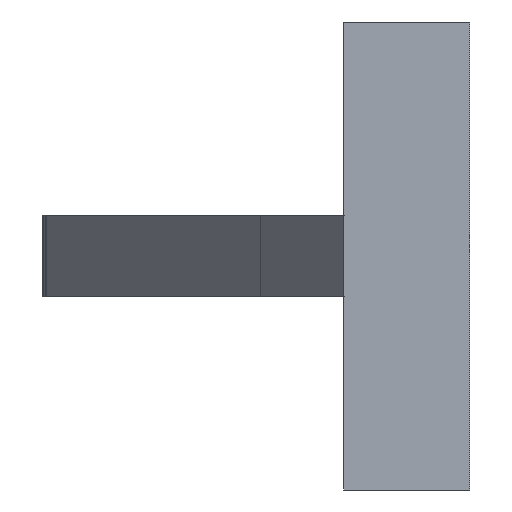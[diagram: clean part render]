
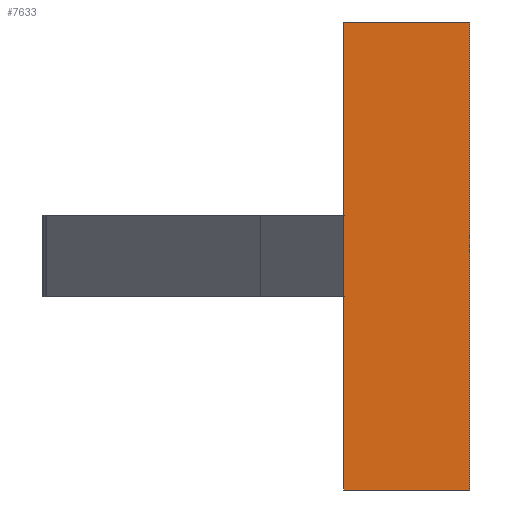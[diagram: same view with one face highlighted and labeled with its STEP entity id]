
A CAD part, front view. The second image highlights one B-rep face of the part: STEP entity #7633.
In plain terms, the highlighted planar face has unit normal (0, -1, 0).
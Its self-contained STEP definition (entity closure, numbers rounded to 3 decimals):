
#635 = VERTEX_POINT('',#636);
#636 = CARTESIAN_POINT('',(26.,-49.,-4.5));
#649 = PLANE('',#650);
#650 = AXIS2_PLACEMENT_3D('',#651,#652,#653);
#651 = CARTESIAN_POINT('',(36.,-38.,-26.));
#652 = DIRECTION('',(0.74,-0.673,0.));
#653 = DIRECTION('',(-0.673,-0.74,0.));
#676 = PLANE('',#677);
#677 = AXIS2_PLACEMENT_3D('',#678,#679,#680);
#678 = CARTESIAN_POINT('',(26.,-49.,-4.5));
#679 = DIRECTION('',(-0.79,-0.613,0.));
#680 = DIRECTION('',(-0.613,0.79,0.));
#3159 = VERTEX_POINT('',#3160);
#3160 = CARTESIAN_POINT('',(26.,-49.,4.5));
#3173 = PLANE('',#3174);
#3174 = AXIS2_PLACEMENT_3D('',#3175,#3176,#3177);
#3175 = CARTESIAN_POINT('',(36.,-38.,-26.));
#3176 = DIRECTION('',(0.74,-0.673,0.));
#3177 = DIRECTION('',(-0.673,-0.74,0.));
#5246 = EDGE_CURVE('',#635,#3159,#5247,.T.);
#5247 = SURFACE_CURVE('',#5248,(#5252,#5259),.PCURVE_S1.);
#5248 = LINE('',#5249,#5250);
#5249 = CARTESIAN_POINT('',(26.,-49.,-4.5));
#5250 = VECTOR('',#5251,1.);
#5251 = DIRECTION('',(0.,0.,1.));
#5252 = PCURVE('',#676,#5253);
#5253 = DEFINITIONAL_REPRESENTATION('',(#5254),#5258);
#5254 = LINE('',#5255,#5256);
#5255 = CARTESIAN_POINT('',(0.,0.));
#5256 = VECTOR('',#5257,1.);
#5257 = DIRECTION('',(0.,-1.));
#5258 = ( GEOMETRIC_REPRESENTATION_CONTEXT(2) 
PARAMETRIC_REPRESENTATION_CONTEXT() REPRESENTATION_CONTEXT('2D SPACE',''
  ) );
#5259 = PCURVE('',#5260,#5265);
#5260 = PLANE('',#5261);
#5261 = AXIS2_PLACEMENT_3D('',#5262,#5263,#5264);
#5262 = CARTESIAN_POINT('',(36.,-49.,-4.5));
#5263 = DIRECTION('',(0.,-1.,0.));
#5264 = DIRECTION('',(-1.,0.,0.));
#5265 = DEFINITIONAL_REPRESENTATION('',(#5266),#5270);
#5266 = LINE('',#5267,#5268);
#5267 = CARTESIAN_POINT('',(10.,0.));
#5268 = VECTOR('',#5269,1.);
#5269 = DIRECTION('',(0.,-1.));
#5270 = ( GEOMETRIC_REPRESENTATION_CONTEXT(2) 
PARAMETRIC_REPRESENTATION_CONTEXT() REPRESENTATION_CONTEXT('2D SPACE',''
  ) );
#5308 = VERTEX_POINT('',#5309);
#5309 = CARTESIAN_POINT('',(26.,-49.,-26.));
#5323 = PLANE('',#5324);
#5324 = AXIS2_PLACEMENT_3D('',#5325,#5326,#5327);
#5325 = CARTESIAN_POINT('',(32.533,-45.033,-26.));
#5326 = DIRECTION('',(0.,0.,1.));
#5327 = DIRECTION('',(1.,0.,-0.));
#5357 = EDGE_CURVE('',#5308,#635,#5358,.T.);
#5358 = SURFACE_CURVE('',#5359,(#5363,#5370),.PCURVE_S1.);
#5359 = LINE('',#5360,#5361);
#5360 = CARTESIAN_POINT('',(26.,-49.,-26.));
#5361 = VECTOR('',#5362,1.);
#5362 = DIRECTION('',(0.,0.,1.));
#5363 = PCURVE('',#649,#5364);
#5364 = DEFINITIONAL_REPRESENTATION('',(#5365),#5369);
#5365 = LINE('',#5366,#5367);
#5366 = CARTESIAN_POINT('',(14.866,0.));
#5367 = VECTOR('',#5368,1.);
#5368 = DIRECTION('',(0.,-1.));
#5369 = ( GEOMETRIC_REPRESENTATION_CONTEXT(2) 
PARAMETRIC_REPRESENTATION_CONTEXT() REPRESENTATION_CONTEXT('2D SPACE',''
  ) );
#5370 = PCURVE('',#5260,#5371);
#5371 = DEFINITIONAL_REPRESENTATION('',(#5372),#5376);
#5372 = LINE('',#5373,#5374);
#5373 = CARTESIAN_POINT('',(10.,21.5));
#5374 = VECTOR('',#5375,1.);
#5375 = DIRECTION('',(0.,-1.));
#5376 = ( GEOMETRIC_REPRESENTATION_CONTEXT(2) 
PARAMETRIC_REPRESENTATION_CONTEXT() REPRESENTATION_CONTEXT('2D SPACE',''
  ) );
#7537 = VERTEX_POINT('',#7538);
#7538 = CARTESIAN_POINT('',(26.,-49.,26.));
#7552 = PLANE('',#7553);
#7553 = AXIS2_PLACEMENT_3D('',#7554,#7555,#7556);
#7554 = CARTESIAN_POINT('',(32.533,-45.033,26.));
#7555 = DIRECTION('',(0.,0.,1.));
#7556 = DIRECTION('',(1.,0.,-0.));
#7564 = EDGE_CURVE('',#3159,#7537,#7565,.T.);
#7565 = SURFACE_CURVE('',#7566,(#7570,#7577),.PCURVE_S1.);
#7566 = LINE('',#7567,#7568);
#7567 = CARTESIAN_POINT('',(26.,-49.,-26.));
#7568 = VECTOR('',#7569,1.);
#7569 = DIRECTION('',(0.,0.,1.));
#7570 = PCURVE('',#3173,#7571);
#7571 = DEFINITIONAL_REPRESENTATION('',(#7572),#7576);
#7572 = LINE('',#7573,#7574);
#7573 = CARTESIAN_POINT('',(14.866,0.));
#7574 = VECTOR('',#7575,1.);
#7575 = DIRECTION('',(0.,-1.));
#7576 = ( GEOMETRIC_REPRESENTATION_CONTEXT(2) 
PARAMETRIC_REPRESENTATION_CONTEXT() REPRESENTATION_CONTEXT('2D SPACE',''
  ) );
#7577 = PCURVE('',#5260,#7578);
#7578 = DEFINITIONAL_REPRESENTATION('',(#7579),#7583);
#7579 = LINE('',#7580,#7581);
#7580 = CARTESIAN_POINT('',(10.,21.5));
#7581 = VECTOR('',#7582,1.);
#7582 = DIRECTION('',(0.,-1.));
#7583 = ( GEOMETRIC_REPRESENTATION_CONTEXT(2) 
PARAMETRIC_REPRESENTATION_CONTEXT() REPRESENTATION_CONTEXT('2D SPACE',''
  ) );
#7633 = ADVANCED_FACE('',(#7634),#5260,.T.);
#7634 = FACE_BOUND('',#7635,.T.);
#7635 = EDGE_LOOP('',(#7636,#7637,#7638,#7661,#7689,#7710));
#7636 = ORIENTED_EDGE('',*,*,#5246,.F.);
#7637 = ORIENTED_EDGE('',*,*,#5357,.F.);
#7638 = ORIENTED_EDGE('',*,*,#7639,.T.);
#7639 = EDGE_CURVE('',#5308,#7640,#7642,.T.);
#7640 = VERTEX_POINT('',#7641);
#7641 = CARTESIAN_POINT('',(40.,-49.,-26.));
#7642 = SURFACE_CURVE('',#7643,(#7647,#7654),.PCURVE_S1.);
#7643 = LINE('',#7644,#7645);
#7644 = CARTESIAN_POINT('',(26.,-49.,-26.));
#7645 = VECTOR('',#7646,1.);
#7646 = DIRECTION('',(1.,0.,0.));
#7647 = PCURVE('',#5260,#7648);
#7648 = DEFINITIONAL_REPRESENTATION('',(#7649),#7653);
#7649 = LINE('',#7650,#7651);
#7650 = CARTESIAN_POINT('',(10.,21.5));
#7651 = VECTOR('',#7652,1.);
#7652 = DIRECTION('',(-1.,-0.));
#7653 = ( GEOMETRIC_REPRESENTATION_CONTEXT(2) 
PARAMETRIC_REPRESENTATION_CONTEXT() REPRESENTATION_CONTEXT('2D SPACE',''
  ) );
#7654 = PCURVE('',#5323,#7655);
#7655 = DEFINITIONAL_REPRESENTATION('',(#7656),#7660);
#7656 = LINE('',#7657,#7658);
#7657 = CARTESIAN_POINT('',(-6.533,-3.967));
#7658 = VECTOR('',#7659,1.);
#7659 = DIRECTION('',(1.,0.));
#7660 = ( GEOMETRIC_REPRESENTATION_CONTEXT(2) 
PARAMETRIC_REPRESENTATION_CONTEXT() REPRESENTATION_CONTEXT('2D SPACE',''
  ) );
#7661 = ORIENTED_EDGE('',*,*,#7662,.T.);
#7662 = EDGE_CURVE('',#7640,#7663,#7665,.T.);
#7663 = VERTEX_POINT('',#7664);
#7664 = CARTESIAN_POINT('',(40.,-49.,26.));
#7665 = SURFACE_CURVE('',#7666,(#7670,#7677),.PCURVE_S1.);
#7666 = LINE('',#7667,#7668);
#7667 = CARTESIAN_POINT('',(40.,-49.,-26.));
#7668 = VECTOR('',#7669,1.);
#7669 = DIRECTION('',(0.,0.,1.));
#7670 = PCURVE('',#5260,#7671);
#7671 = DEFINITIONAL_REPRESENTATION('',(#7672),#7676);
#7672 = LINE('',#7673,#7674);
#7673 = CARTESIAN_POINT('',(-4.,21.5));
#7674 = VECTOR('',#7675,1.);
#7675 = DIRECTION('',(0.,-1.));
#7676 = ( GEOMETRIC_REPRESENTATION_CONTEXT(2) 
PARAMETRIC_REPRESENTATION_CONTEXT() REPRESENTATION_CONTEXT('2D SPACE',''
  ) );
#7677 = PCURVE('',#7678,#7683);
#7678 = PLANE('',#7679);
#7679 = AXIS2_PLACEMENT_3D('',#7680,#7681,#7682);
#7680 = CARTESIAN_POINT('',(40.,-49.,-26.));
#7681 = DIRECTION('',(-1.,0.,0.));
#7682 = DIRECTION('',(0.,1.,0.));
#7683 = DEFINITIONAL_REPRESENTATION('',(#7684),#7688);
#7684 = LINE('',#7685,#7686);
#7685 = CARTESIAN_POINT('',(0.,0.));
#7686 = VECTOR('',#7687,1.);
#7687 = DIRECTION('',(0.,-1.));
#7688 = ( GEOMETRIC_REPRESENTATION_CONTEXT(2) 
PARAMETRIC_REPRESENTATION_CONTEXT() REPRESENTATION_CONTEXT('2D SPACE',''
  ) );
#7689 = ORIENTED_EDGE('',*,*,#7690,.T.);
#7690 = EDGE_CURVE('',#7663,#7537,#7691,.T.);
#7691 = SURFACE_CURVE('',#7692,(#7696,#7703),.PCURVE_S1.);
#7692 = LINE('',#7693,#7694);
#7693 = CARTESIAN_POINT('',(40.,-49.,26.));
#7694 = VECTOR('',#7695,1.);
#7695 = DIRECTION('',(-1.,0.,0.));
#7696 = PCURVE('',#5260,#7697);
#7697 = DEFINITIONAL_REPRESENTATION('',(#7698),#7702);
#7698 = LINE('',#7699,#7700);
#7699 = CARTESIAN_POINT('',(-4.,-30.5));
#7700 = VECTOR('',#7701,1.);
#7701 = DIRECTION('',(1.,0.));
#7702 = ( GEOMETRIC_REPRESENTATION_CONTEXT(2) 
PARAMETRIC_REPRESENTATION_CONTEXT() REPRESENTATION_CONTEXT('2D SPACE',''
  ) );
#7703 = PCURVE('',#7552,#7704);
#7704 = DEFINITIONAL_REPRESENTATION('',(#7705),#7709);
#7705 = LINE('',#7706,#7707);
#7706 = CARTESIAN_POINT('',(7.467,-3.967));
#7707 = VECTOR('',#7708,1.);
#7708 = DIRECTION('',(-1.,0.));
#7709 = ( GEOMETRIC_REPRESENTATION_CONTEXT(2) 
PARAMETRIC_REPRESENTATION_CONTEXT() REPRESENTATION_CONTEXT('2D SPACE',''
  ) );
#7710 = ORIENTED_EDGE('',*,*,#7564,.F.);
